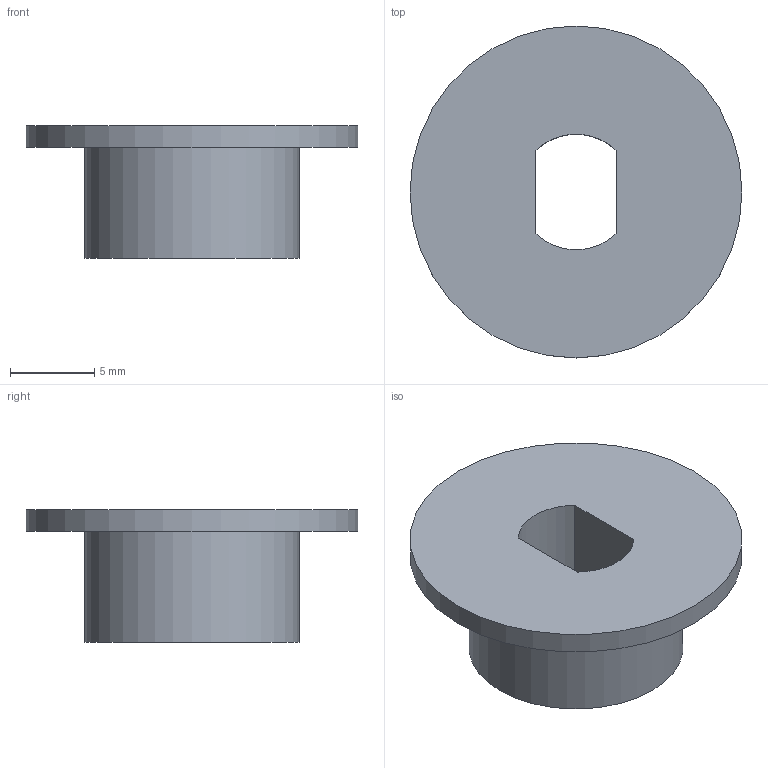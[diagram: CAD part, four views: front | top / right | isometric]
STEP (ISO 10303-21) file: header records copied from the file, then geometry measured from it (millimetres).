
FILE_DESCRIPTION((''),'2;1');
FILE_NAME('C:\Documents and Settings\Powderly\Desktop\Motor1_Hub.stp','2005-08-09T02:14:44',('Powderly'),(''),'Autodesk Inventor 10','Autodesk Inventor 10','');
FILE_SCHEMA(('AUTOMOTIVE_DESIGN { 1 0 10303 214 1 1 1 1 }'));
Length unit declared in the file: inch
Products named in the file (1): Motor1_Hub
Bounding box: 19.68 x 19.68 x 7.87 mm (x, y, z)
Volume: 988.9 mm3; surface area: 1051.8 mm2
Topology: 1 solids, 1 shells, 9 faces, 18 edges, 12 vertices
Faces by surface type: plane 5, cylinder 4
Full cylindrical faces by diameter (mm): 12.7 x1, 19.685 x1
Entity records: 259 total; most frequent: DIRECTION 44, CARTESIAN_POINT 38, ORIENTED_EDGE 32, AXIS2_PLACEMENT_3D 18, EDGE_CURVE 16, EDGE_LOOP 14, VERTEX_POINT 12, FACE_OUTER_BOUND 9
